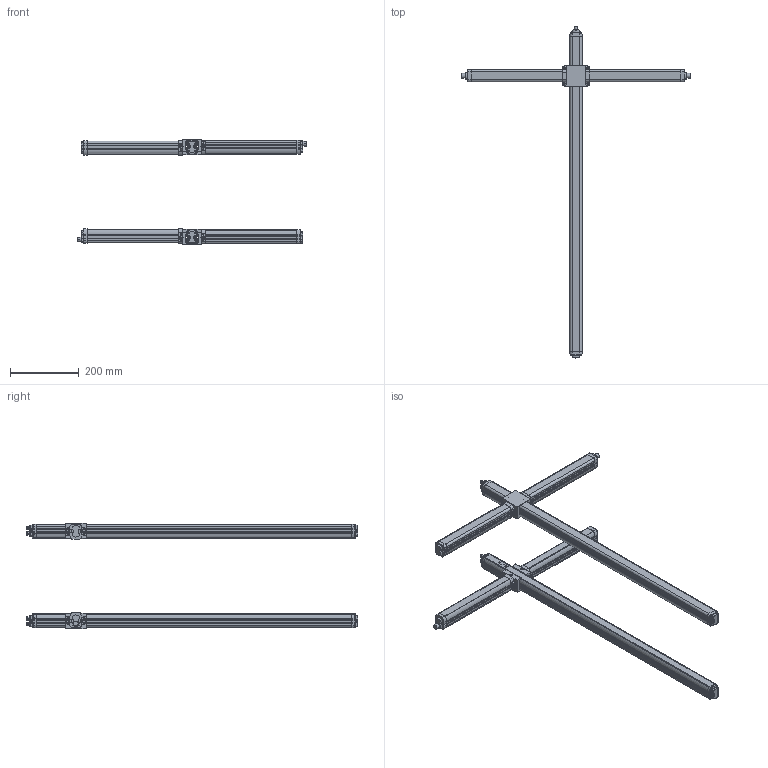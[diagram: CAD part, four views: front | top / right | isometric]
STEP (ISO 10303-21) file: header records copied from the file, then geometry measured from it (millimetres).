
FILE_DESCRIPTION((''),'2;1');
FILE_NAME('2015912_ASM','2014-05-13T',('rink'),(''),'PRO/ENGINEER BY PARAMETRIC TECHNOLOGY CORPORATION, 2011040','PRO/ENGINEER BY PARAMETRIC TECHNOLOGY CORPORATION, 2011040','');
FILE_SCHEMA(('AUTOMOTIVE_DESIGN_CC2 { 1 2 10303 214 -1 1 5 2 }'));
Products named in the file (8): 2013527; 2015862; 2003292; 2015891; 2015864; 2015866; 2013524; 2015912_ASM
Assembly tree (24 placements, depth 2):
  2015912_ASM
    2013527
    2015862  x2
    2003292  x8
    2015891  x8
    2015864  x2
    2015866  x2
    2013524
Bounding box: 665.5 x 962 x 305.1 mm (x, y, z)
Volume: 3943918 mm3; surface area: 609334.1 mm2
Topology: 29 solids, 29 shells, 4463 faces, 10775 edges, 6556 vertices
Faces by surface type: plane 1302, bspline 1121, cylinder 1101, torus 426, extrusion 198, sphere 196, cone 119
Entity records: 177947 total; most frequent: CARTESIAN_POINT 81703, ORIENTED_EDGE 18314, DIRECTION 14359, EDGE_CURVE 9157, VERTEX_POINT 5350, AXIS2_PLACEMENT_3D 5340, PRESENTATION_STYLE_ASSIGNMENT 4663, STYLED_ITEM 4553
